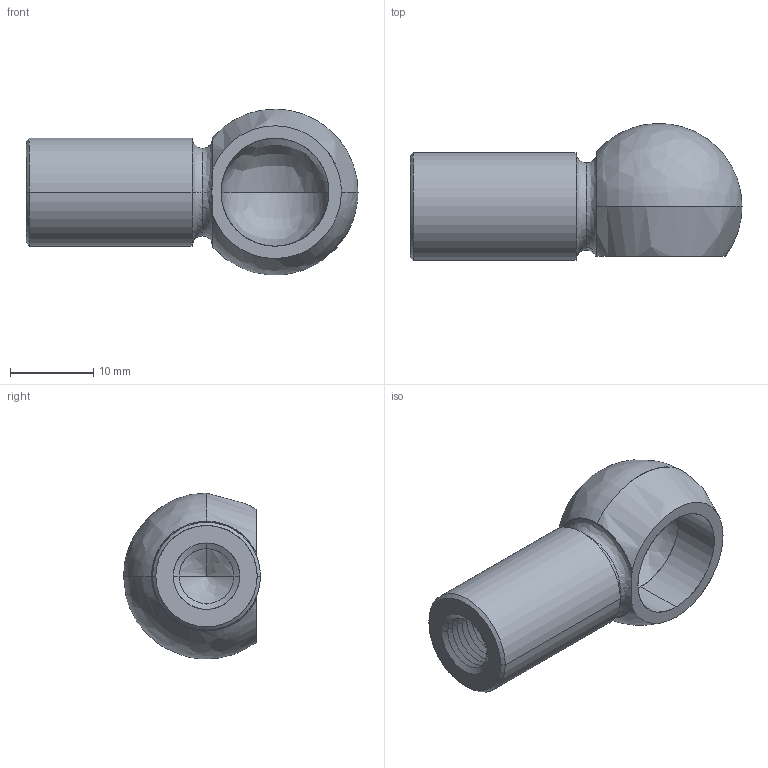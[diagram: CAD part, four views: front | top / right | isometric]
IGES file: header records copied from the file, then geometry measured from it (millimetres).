
Start section: SolidWorks IGES file using analytic representation for surfaces
Bounding box: 40 x 16.5 x 19.96 mm (x, y, z)
Surface area: 3214 mm2 (no closed solid volume)
Topology: 0 solids, 0 shells, 136 faces, 900 edges, 890 vertices
Faces by surface type: revolution 123, bspline 13
